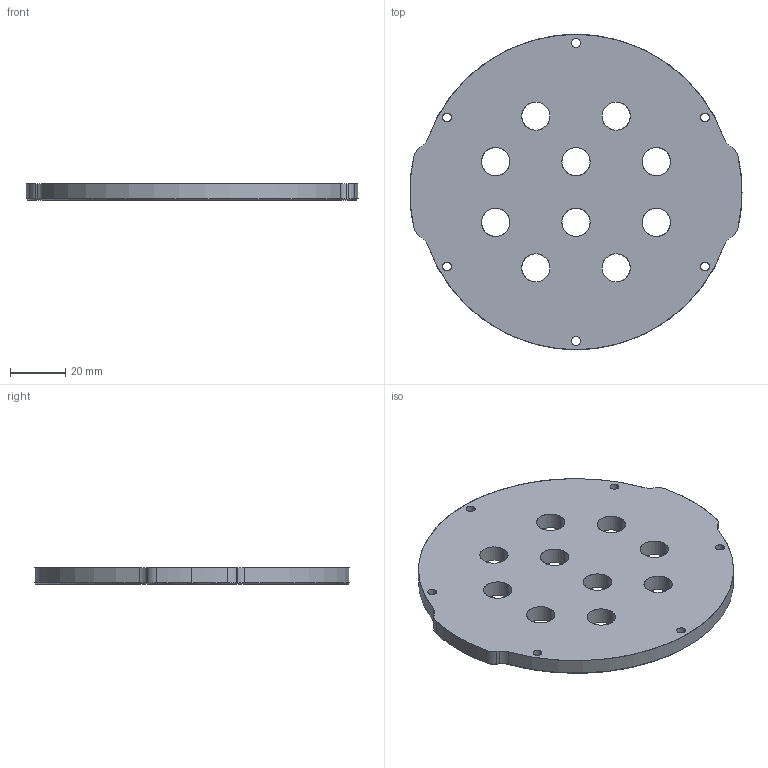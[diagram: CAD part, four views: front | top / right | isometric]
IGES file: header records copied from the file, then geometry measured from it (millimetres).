
Start section: SolidWorks IGES file using analytic representation for surfaces
Global section: file name: C:\Users\rjehangir\Dropbox\BlueRobotics\BR-Engineering\Models\WTE-4-X2A\WTE4-M-END-CAP-10-10MM-R1.IGS; native system: SolidWorks 2014; preprocessor: SolidWorks 2014; author: rjehangir; date: 151015.103912; units: millimetre
Bounding box: 120.3 x 114.3 x 6 mm (x, y, z)
Surface area: 23555.3 mm2 (no closed solid volume)
Topology: 0 solids, 0 shells, 68 faces, 1442 edges, 1442 vertices
Faces by surface type: revolution 58, bspline 10
